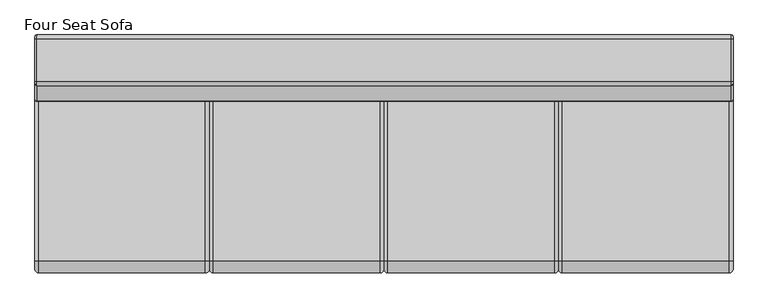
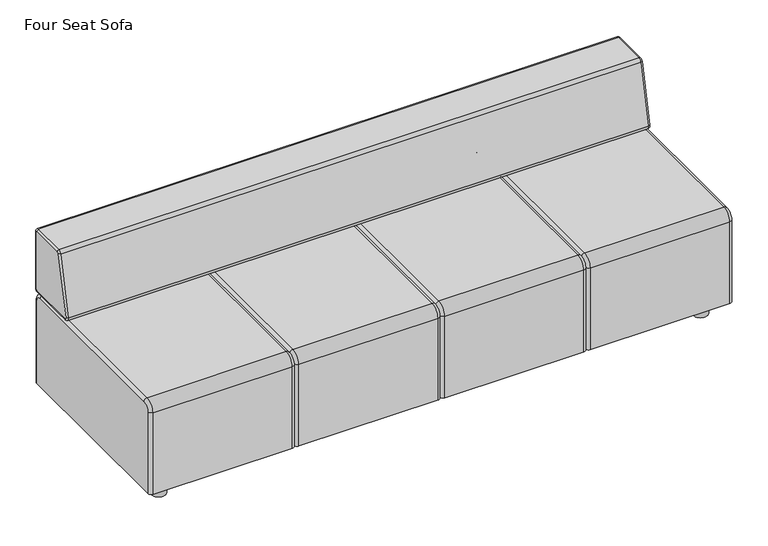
"""IFC4 building model written with IfcOpenShell, lengths in millimetres: furniture geometry, Coalesse_AM_Seating_Sofa_Await_Modular : Four Seat Sofa."""

from ifc_helpers import new_model, si_unit, point, frame, frame_2d, origin, origin_with_axes, place, context, project, spatial, circle_curve, ellipse_curve, trimmed, segment, composite_curve, outline, extrude, source, transform, mapped, element, save
from ifc_brep_helpers import plane_surface, cylinder_surface, revolved_surface, advanced_brep


def four_seat_sofa_2ec21741(model_context):
    return source(origin(), model_context, "Body", "SolidModel", [
        advanced_brep(
        [(1012.4820962, 393.3623127, 63.5), (1025.0654254, 405.9456418, 63.5), (1558.4886405, 405.9456418, 63.5), (1571.2821022, 393.1521801, 63.5), (1571.2821022, -343.2608965, 63.5), (1558.4886405, -356.0543582, 63.5), (1025.0654254, -356.0543582, 63.5), (1012.4820962, -343.471029, 63.5), (1012.4820962, -343.471029, 393.6999879), (1012.4820962, -317.9543582, 419.2166587), (1012.4820962, 370.1950719, 419.2166587), (1012.4820962, 393.3623127, 396.049418), (1571.2821022, 393.1521801, 396.049418), (1571.2821022, 370.1950719, 419.0065262), (1571.2821022, -317.9543582, 419.0065262), (1571.2821022, -343.2608965, 393.6999879), (1558.4886405, -356.0543582, 393.6999879), (1025.0654254, -356.0543582, 393.6999879), (1558.4886405, -317.9543582, 431.7999879), (1025.0654254, -317.9543582, 431.7999879), (1558.4886405, 370.1950719, 431.7999879), (1025.0654254, 370.1950719, 431.7999879), (1558.4886405, 405.9456418, 396.049418), (1025.0654254, 405.9456418, 396.049418)],
        [
            (0, 1, circle_curve(frame((1025.0654254, 393.3623127, 63.5), z_axis=(0.0, 0.0, -1.0), x_axis=(0.0, 1.0, 0.0)), 12.5833292)),
            (1, 2),
            (2, 3, circle_curve(frame((1558.4886405, 393.1521801, 63.5), z_axis=(0.0, 0.0, -1.0), x_axis=(0.0, 1.0, 0.0)), 12.7934617)),
            (3, 4),
            (4, 5, circle_curve(frame((1558.4886405, -343.2608965, 63.5), z_axis=(0.0, 0.0, -1.0), x_axis=(0.0, -1.0, 0.0)), 12.7934617)),
            (5, 6),
            (6, 7, circle_curve(frame((1025.0654254, -343.471029, 63.5), z_axis=(0.0, 0.0, -1.0), x_axis=(0.0, -1.0, 0.0)), 12.5833292)),
            (7, 0),
            (7, 8),
            (8, 9, circle_curve(frame((1012.4820962, -317.9543582, 393.6999879), z_axis=(-1.0, 0.0, 0.0), x_axis=(0.0, -1.0, 0.0)), 25.5166708)),
            (9, 10),
            (10, 11, circle_curve(frame((1012.4820962, 370.1950719, 396.049418), z_axis=(-1.0, 0.0, 0.0), x_axis=(0.0, 0.0, 1.0)), 23.1672407)),
            (11, 0),
            (3, 12),
            (12, 13, circle_curve(frame((1571.2821022, 370.1950719, 396.049418), z_axis=(1.0, 0.0, 0.0), x_axis=(0.0, 0.0, 1.0)), 22.9571082)),
            (13, 14),
            (14, 15, circle_curve(frame((1571.2821022, -317.9543582, 393.6999879), z_axis=(1.0, 0.0, 0.0), x_axis=(0.0, -1.0, 0.0)), 25.3065383)),
            (15, 4),
            (15, 16, circle_curve(frame((1558.4886405, -343.2608965, 393.6999879), z_axis=(0.0, 0.0, -1.0), x_axis=(0.0, -1.0, 0.0)), 12.7934617)),
            (16, 5),
            (16, 17),
            (17, 6),
            (17, 8, circle_curve(frame((1025.0654254, -343.471029, 393.6999879), z_axis=(0.0, 0.0, -1.0), x_axis=(0.0, -1.0, 0.0)), 12.5833292)),
            (14, 18, circle_curve(frame((1558.4886405, -317.9543582, 419.0065262), z_axis=(0.0, -1.0, 0.0), x_axis=(0.0, 0.0, 1.0)), 12.7934617)),
            (18, 16, circle_curve(frame((1558.4886405, -317.9543582, 393.6999879), z_axis=(1.0, 0.0, 0.0), x_axis=(0.0, -1.0, 0.0)), 38.1)),
            (18, 19),
            (19, 17, circle_curve(frame((1025.0654254, -317.9543582, 393.6999879), z_axis=(1.0, 0.0, 0.0), x_axis=(0.0, -1.0, 0.0)), 38.1)),
            (19, 9, circle_curve(frame((1025.0654254, -317.9543582, 419.2166587), z_axis=(0.0, -1.0, 0.0), x_axis=(0.0, 0.0, 1.0)), 12.5833292)),
            (13, 20, circle_curve(frame((1558.4886405, 370.1950719, 419.0065262), z_axis=(0.0, -1.0, 0.0), x_axis=(0.0, 0.0, 1.0)), 12.7934617)),
            (20, 18),
            (20, 21),
            (21, 19),
            (21, 10, circle_curve(frame((1025.0654254, 370.1950719, 419.2166587), z_axis=(0.0, -1.0, 0.0), x_axis=(0.0, 0.0, 1.0)), 12.5833292)),
            (12, 22, circle_curve(frame((1558.4886405, 393.1521801, 396.049418), z_axis=(0.0, 0.0, 1.0), x_axis=(0.0, 1.0, 0.0)), 12.7934617)),
            (22, 20, circle_curve(frame((1558.4886405, 370.1950719, 396.049418), z_axis=(1.0, 0.0, 0.0), x_axis=(0.0, 0.0, 1.0)), 35.7505699)),
            (22, 23),
            (23, 21, circle_curve(frame((1025.0654254, 370.1950719, 396.049418), z_axis=(1.0, 0.0, 0.0), x_axis=(0.0, 0.0, 1.0)), 35.7505699)),
            (23, 11, circle_curve(frame((1025.0654254, 393.3623127, 396.049418), z_axis=(0.0, 0.0, 1.0), x_axis=(0.0, 1.0, 0.0)), 12.5833292)),
            (2, 22),
            (1, 23),
        ],
        [
            plane_surface(frame((1676.4000182, -330.6543582, 63.5), z_axis=(0.0, 0.0, -1.0), x_axis=(1.0, 0.0, 0.0))),
            plane_surface(frame((1012.4820962, -343.471029, 63.5), z_axis=(-1.0, 0.0, 0.0), x_axis=(0.0, 0.0, 1.0))),
            plane_surface(frame((1571.2821022, -330.6543582, 63.5), z_axis=(1.0, 0.0, 0.0), x_axis=(0.0, 0.0, 1.0))),
            cylinder_surface(frame((1558.4886405, -343.2608965, 63.5), z_axis=(0.0, 0.0, -1.0), x_axis=(0.0, -1.0, 0.0)), 12.7934617),
            plane_surface(frame((1558.4886405, -356.0543582, 63.5), z_axis=(0.0, -1.0, 0.0), x_axis=(0.0, 0.0, 1.0))),
            cylinder_surface(frame((1025.0654254, -343.471029, 63.5), z_axis=(0.0, 0.0, -1.0), x_axis=(0.0, -1.0, 0.0)), 12.5833292),
            revolved_surface(trimmed(ellipse_curve(frame((1558.4886405, -343.2608965, 393.6999879), z_axis=(0.0, 0.0, -1.0), x_axis=(0.0, -1.0, 0.0)), 12.7934617, 12.7934617), [point((1571.2821022, -343.2608965, 393.6999879))], [point((1558.4886405, -356.0543582, 393.6999879))], True, "CARTESIAN"), (1676.4000182, -317.9543582, 393.6999879), (-1.0, 0.0, 0.0)),
            cylinder_surface(frame((1676.4000182, -317.9543582, 393.6999879), z_axis=(-1.0, 0.0, 0.0), x_axis=(0.0, -1.0, 0.0)), 38.1),
            revolved_surface(trimmed(ellipse_curve(frame((1025.0654254, -343.471029, 393.6999879), z_axis=(0.0, 0.0, -1.0), x_axis=(0.0, -1.0, 0.0)), 12.5833292, 12.5833292), [point((1025.0654254, -356.0543582, 393.6999879))], [point((1012.4820962, -343.471029, 393.6999879))], True, "CARTESIAN"), (1676.4000182, -317.9543582, 393.6999879), (-1.0, 0.0, 0.0)),
            cylinder_surface(frame((1558.4886405, -317.9543582, 419.0065262), z_axis=(0.0, -1.0, 0.0), x_axis=(0.0, 0.0, 1.0)), 12.7934617),
            plane_surface(frame((1558.4886405, -317.9543582, 431.7999879), z_axis=(0.0, 0.0, 1.0), x_axis=(0.0, 1.0, 0.0))),
            cylinder_surface(frame((1025.0654254, -317.9543582, 419.2166587), z_axis=(0.0, -1.0, 0.0), x_axis=(0.0, 0.0, 1.0)), 12.5833292),
            revolved_surface(trimmed(ellipse_curve(frame((1558.4886405, 370.1950719, 419.0065262), z_axis=(0.0, -1.0, 0.0), x_axis=(0.0, 0.0, 1.0)), 12.7934617, 12.7934617), [point((1571.2821022, 370.1950719, 419.0065262))], [point((1558.4886405, 370.1950719, 431.7999879))], True, "CARTESIAN"), (1676.4000182, 370.1950719, 396.049418), (-1.0, 0.0, 0.0)),
            cylinder_surface(frame((1676.4000182, 370.1950719, 396.049418), z_axis=(-1.0, 0.0, 0.0), x_axis=(0.0, 0.0, 1.0)), 35.7505699),
            revolved_surface(trimmed(ellipse_curve(frame((1025.0654254, 370.1950719, 419.2166587), z_axis=(0.0, -1.0, 0.0), x_axis=(0.0, 0.0, 1.0)), 12.5833292, 12.5833292), [point((1025.0654254, 370.1950719, 431.7999879))], [point((1012.4820962, 370.1950719, 419.2166587))], True, "CARTESIAN"), (1676.4000182, 370.1950719, 396.049418), (-1.0, 0.0, 0.0)),
            cylinder_surface(frame((1558.4886405, 393.1521801, 396.049418), z_axis=(0.0, 0.0, 1.0), x_axis=(0.0, 1.0, 0.0)), 12.7934617),
            plane_surface(frame((1558.4886405, 405.9456418, 396.049418), z_axis=(0.0, 1.0, 0.0), x_axis=(0.0, 0.0, -1.0))),
            cylinder_surface(frame((1025.0654254, 393.3623127, 396.049418), z_axis=(0.0, 0.0, 1.0), x_axis=(0.0, 1.0, 0.0)), 12.5833292),
        ],
        [
            (0, [[1, 2, 3, 4, 5, 6, 7, 8]]),
            (1, [[-8, 9, 10, 11, 12, 13]]),
            (2, [[-4, 14, 15, 16, 17, 18]]),
            (3, [[-5, -18, 19, 20]]),
            (4, [[-6, -20, 21, 22]]),
            (5, [[-7, -22, 23, -9]]),
            (6, [[-17, 24, 25, -19]]),
            (7, [[-21, -25, 26, 27]]),
            (8, [[-10, -23, -27, 28]]),
            (9, [[-16, 29, 30, -24]]),
            (10, [[-26, -30, 31, 32]]),
            (11, [[-11, -28, -32, 33]]),
            (12, [[-15, 34, 35, -29]]),
            (13, [[-31, -35, 36, 37]]),
            (14, [[-12, -33, -37, 38]]),
            (15, [[-14, -3, 39, -34]]),
            (16, [[-36, -39, -2, 40]]),
            (17, [[-13, -38, -40, -1]]),
        ],
    ),
        advanced_brep(
        [(453.6820901, 393.3623127, 63.5), (466.2654193, 405.9456418, 63.5), (999.6886345, 405.9456418, 63.5), (1012.4820962, 393.1521801, 63.5), (1012.4820962, -343.2608965, 63.5), (999.6886345, -356.0543582, 63.5), (466.2654193, -356.0543582, 63.5), (453.6820901, -343.471029, 63.5), (453.6820901, -343.471029, 393.6999879), (453.6820901, -317.9543582, 419.2166587), (453.6820901, 370.1950719, 419.2166587), (453.6820901, 393.3623127, 396.049418), (1012.4820962, 393.1521801, 396.049418), (1012.4820962, 370.1950719, 419.0065262), (1012.4820962, -317.9543582, 419.0065262), (1012.4820962, -343.2608965, 393.6999879), (999.6886345, -356.0543582, 393.6999879), (466.2654193, -356.0543582, 393.6999879), (999.6886345, -317.9543582, 431.7999879), (466.2654193, -317.9543582, 431.7999879), (999.6886345, 370.1950719, 431.7999879), (466.2654193, 370.1950719, 431.7999879), (999.6886345, 405.9456418, 396.049418), (466.2654193, 405.9456418, 396.049418)],
        [
            (0, 1, circle_curve(frame((466.2654193, 393.3623127, 63.5), z_axis=(0.0, 0.0, -1.0), x_axis=(0.0, 1.0, 0.0)), 12.5833292)),
            (1, 2),
            (2, 3, circle_curve(frame((999.6886345, 393.1521801, 63.5), z_axis=(0.0, 0.0, -1.0), x_axis=(0.0, 1.0, 0.0)), 12.7934617)),
            (3, 4),
            (4, 5, circle_curve(frame((999.6886345, -343.2608965, 63.5), z_axis=(0.0, 0.0, -1.0), x_axis=(0.0, -1.0, 0.0)), 12.7934617)),
            (5, 6),
            (6, 7, circle_curve(frame((466.2654193, -343.471029, 63.5), z_axis=(0.0, 0.0, -1.0), x_axis=(0.0, -1.0, 0.0)), 12.5833292)),
            (7, 0),
            (7, 8),
            (8, 9, circle_curve(frame((453.6820901, -317.9543582, 393.6999879), z_axis=(-1.0, 0.0, 0.0), x_axis=(0.0, -1.0, 0.0)), 25.5166708)),
            (9, 10),
            (10, 11, circle_curve(frame((453.6820901, 370.1950719, 396.049418), z_axis=(-1.0, 0.0, 0.0), x_axis=(0.0, 0.0, 1.0)), 23.1672407)),
            (11, 0),
            (3, 12),
            (12, 13, circle_curve(frame((1012.4820962, 370.1950719, 396.049418), z_axis=(1.0, 0.0, 0.0), x_axis=(0.0, 0.0, 1.0)), 22.9571082)),
            (13, 14),
            (14, 15, circle_curve(frame((1012.4820962, -317.9543582, 393.6999879), z_axis=(1.0, 0.0, 0.0), x_axis=(0.0, -1.0, 0.0)), 25.3065383)),
            (15, 4),
            (15, 16, circle_curve(frame((999.6886345, -343.2608965, 393.6999879), z_axis=(0.0, 0.0, -1.0), x_axis=(0.0, -1.0, 0.0)), 12.7934617)),
            (16, 5),
            (16, 17),
            (17, 6),
            (17, 8, circle_curve(frame((466.2654193, -343.471029, 393.6999879), z_axis=(0.0, 0.0, -1.0), x_axis=(0.0, -1.0, 0.0)), 12.5833292)),
            (14, 18, circle_curve(frame((999.6886345, -317.9543582, 419.0065262), z_axis=(0.0, -1.0, 0.0), x_axis=(0.0, 0.0, 1.0)), 12.7934617)),
            (18, 16, circle_curve(frame((999.6886345, -317.9543582, 393.6999879), z_axis=(1.0, 0.0, 0.0), x_axis=(0.0, -1.0, 0.0)), 38.1)),
            (18, 19),
            (19, 17, circle_curve(frame((466.2654193, -317.9543582, 393.6999879), z_axis=(1.0, 0.0, 0.0), x_axis=(0.0, -1.0, 0.0)), 38.1)),
            (19, 9, circle_curve(frame((466.2654193, -317.9543582, 419.2166587), z_axis=(0.0, -1.0, 0.0), x_axis=(0.0, 0.0, 1.0)), 12.5833292)),
            (13, 20, circle_curve(frame((999.6886345, 370.1950719, 419.0065262), z_axis=(0.0, -1.0, 0.0), x_axis=(0.0, 0.0, 1.0)), 12.7934617)),
            (20, 18),
            (20, 21),
            (21, 19),
            (21, 10, circle_curve(frame((466.2654193, 370.1950719, 419.2166587), z_axis=(0.0, -1.0, 0.0), x_axis=(0.0, 0.0, 1.0)), 12.5833292)),
            (12, 22, circle_curve(frame((999.6886345, 393.1521801, 396.049418), z_axis=(0.0, 0.0, 1.0), x_axis=(0.0, 1.0, 0.0)), 12.7934617)),
            (22, 20, circle_curve(frame((999.6886345, 370.1950719, 396.049418), z_axis=(1.0, 0.0, 0.0), x_axis=(0.0, 0.0, 1.0)), 35.7505699)),
            (22, 23),
            (23, 21, circle_curve(frame((466.2654193, 370.1950719, 396.049418), z_axis=(1.0, 0.0, 0.0), x_axis=(0.0, 0.0, 1.0)), 35.7505699)),
            (23, 11, circle_curve(frame((466.2654193, 393.3623127, 396.049418), z_axis=(0.0, 0.0, 1.0), x_axis=(0.0, 1.0, 0.0)), 12.5833292)),
            (2, 22),
            (1, 23),
        ],
        [
            plane_surface(frame((1117.6000121, -330.6543582, 63.5), z_axis=(0.0, 0.0, -1.0), x_axis=(1.0, 0.0, 0.0))),
            plane_surface(frame((453.6820901, -343.471029, 63.5), z_axis=(-1.0, 0.0, 0.0), x_axis=(0.0, 0.0, 1.0))),
            plane_surface(frame((1012.4820962, -330.6543582, 63.5), z_axis=(1.0, 0.0, 0.0), x_axis=(0.0, 0.0, 1.0))),
            cylinder_surface(frame((999.6886345, -343.2608965, 63.5), z_axis=(0.0, 0.0, -1.0), x_axis=(0.0, -1.0, 0.0)), 12.7934617),
            plane_surface(frame((999.6886345, -356.0543582, 63.5), z_axis=(0.0, -1.0, 0.0), x_axis=(0.0, 0.0, 1.0))),
            cylinder_surface(frame((466.2654193, -343.471029, 63.5), z_axis=(0.0, 0.0, -1.0), x_axis=(0.0, -1.0, 0.0)), 12.5833292),
            revolved_surface(trimmed(ellipse_curve(frame((999.6886345, -343.2608965, 393.6999879), z_axis=(0.0, 0.0, -1.0), x_axis=(0.0, -1.0, 0.0)), 12.7934617, 12.7934617), [point((1012.4820962, -343.2608965, 393.6999879))], [point((999.6886345, -356.0543582, 393.6999879))], True, "CARTESIAN"), (1117.6000121, -317.9543582, 393.6999879), (-1.0, 0.0, 0.0)),
            cylinder_surface(frame((1117.6000121, -317.9543582, 393.6999879), z_axis=(-1.0, 0.0, 0.0), x_axis=(0.0, -1.0, 0.0)), 38.1),
            revolved_surface(trimmed(ellipse_curve(frame((466.2654193, -343.471029, 393.6999879), z_axis=(0.0, 0.0, -1.0), x_axis=(0.0, -1.0, 0.0)), 12.5833292, 12.5833292), [point((466.2654193, -356.0543582, 393.6999879))], [point((453.6820901, -343.471029, 393.6999879))], True, "CARTESIAN"), (1117.6000121, -317.9543582, 393.6999879), (-1.0, 0.0, 0.0)),
            cylinder_surface(frame((999.6886345, -317.9543582, 419.0065262), z_axis=(0.0, -1.0, 0.0), x_axis=(0.0, 0.0, 1.0)), 12.7934617),
            plane_surface(frame((999.6886345, -317.9543582, 431.7999879), z_axis=(0.0, 0.0, 1.0), x_axis=(0.0, 1.0, 0.0))),
            cylinder_surface(frame((466.2654193, -317.9543582, 419.2166587), z_axis=(0.0, -1.0, 0.0), x_axis=(0.0, 0.0, 1.0)), 12.5833292),
            revolved_surface(trimmed(ellipse_curve(frame((999.6886345, 370.1950719, 419.0065262), z_axis=(0.0, -1.0, 0.0), x_axis=(0.0, 0.0, 1.0)), 12.7934617, 12.7934617), [point((1012.4820962, 370.1950719, 419.0065262))], [point((999.6886345, 370.1950719, 431.7999879))], True, "CARTESIAN"), (1117.6000121, 370.1950719, 396.049418), (-1.0, 0.0, 0.0)),
            cylinder_surface(frame((1117.6000121, 370.1950719, 396.049418), z_axis=(-1.0, 0.0, 0.0), x_axis=(0.0, 0.0, 1.0)), 35.7505699),
            revolved_surface(trimmed(ellipse_curve(frame((466.2654193, 370.1950719, 419.2166587), z_axis=(0.0, -1.0, 0.0), x_axis=(0.0, 0.0, 1.0)), 12.5833292, 12.5833292), [point((466.2654193, 370.1950719, 431.7999879))], [point((453.6820901, 370.1950719, 419.2166587))], True, "CARTESIAN"), (1117.6000121, 370.1950719, 396.049418), (-1.0, 0.0, 0.0)),
            cylinder_surface(frame((999.6886345, 393.1521801, 396.049418), z_axis=(0.0, 0.0, 1.0), x_axis=(0.0, 1.0, 0.0)), 12.7934617),
            plane_surface(frame((999.6886345, 405.9456418, 396.049418), z_axis=(0.0, 1.0, 0.0), x_axis=(0.0, 0.0, -1.0))),
            cylinder_surface(frame((466.2654193, 393.3623127, 396.049418), z_axis=(0.0, 0.0, 1.0), x_axis=(0.0, 1.0, 0.0)), 12.5833292),
        ],
        [
            (0, [[1, 2, 3, 4, 5, 6, 7, 8]]),
            (1, [[-8, 9, 10, 11, 12, 13]]),
            (2, [[-4, 14, 15, 16, 17, 18]]),
            (3, [[-5, -18, 19, 20]]),
            (4, [[-6, -20, 21, 22]]),
            (5, [[-7, -22, 23, -9]]),
            (6, [[-17, 24, 25, -19]]),
            (7, [[-21, -25, 26, 27]]),
            (8, [[-10, -23, -27, 28]]),
            (9, [[-16, 29, 30, -24]]),
            (10, [[-26, -30, 31, 32]]),
            (11, [[-11, -28, -32, 33]]),
            (12, [[-15, 34, 35, -29]]),
            (13, [[-31, -35, 36, 37]]),
            (14, [[-12, -33, -37, 38]]),
            (15, [[-14, -3, 39, -34]]),
            (16, [[-36, -39, -2, 40]]),
            (17, [[-13, -38, -40, -1]]),
        ],
    ),
        advanced_brep(
        [(-105.1179159, 393.3623127, 63.5), (-92.5345867, 405.9456418, 63.5), (440.8886284, 405.9456418, 63.5), (453.6820901, 393.1521801, 63.5), (453.6820901, -343.2608965, 63.5), (440.8886284, -356.0543582, 63.5), (-92.5345867, -356.0543582, 63.5), (-105.1179159, -343.471029, 63.5), (-105.1179159, -343.471029, 393.6999879), (-105.1179159, -317.9543582, 419.2166587), (-105.1179159, 370.1950719, 419.2166587), (-105.1179159, 393.3623127, 396.049418), (453.6820901, 393.1521801, 396.049418), (453.6820901, 370.1950719, 419.0065262), (453.6820901, -317.9543582, 419.0065262), (453.6820901, -343.2608965, 393.6999879), (440.8886284, -356.0543582, 393.6999879), (-92.5345867, -356.0543582, 393.6999879), (440.8886284, -317.9543582, 431.7999879), (-92.5345867, -317.9543582, 431.7999879), (440.8886284, 370.1950719, 431.7999879), (-92.5345867, 370.1950719, 431.7999879), (440.8886284, 405.9456418, 396.049418), (-92.5345867, 405.9456418, 396.049418)],
        [
            (0, 1, circle_curve(frame((-92.5345867, 393.3623127, 63.5), z_axis=(0.0, 0.0, -1.0), x_axis=(0.0, 1.0, 0.0)), 12.5833292)),
            (1, 2),
            (2, 3, circle_curve(frame((440.8886284, 393.1521801, 63.5), z_axis=(0.0, 0.0, -1.0), x_axis=(0.0, 1.0, 0.0)), 12.7934617)),
            (3, 4),
            (4, 5, circle_curve(frame((440.8886284, -343.2608965, 63.5), z_axis=(0.0, 0.0, -1.0), x_axis=(0.0, -1.0, 0.0)), 12.7934617)),
            (5, 6),
            (6, 7, circle_curve(frame((-92.5345867, -343.471029, 63.5), z_axis=(0.0, 0.0, -1.0), x_axis=(0.0, -1.0, 0.0)), 12.5833292)),
            (7, 0),
            (7, 8),
            (8, 9, circle_curve(frame((-105.1179159, -317.9543582, 393.6999879), z_axis=(-1.0, 0.0, 0.0), x_axis=(0.0, -1.0, 0.0)), 25.5166708)),
            (9, 10),
            (10, 11, circle_curve(frame((-105.1179159, 370.1950719, 396.049418), z_axis=(-1.0, 0.0, 0.0), x_axis=(0.0, 0.0, 1.0)), 23.1672407)),
            (11, 0),
            (3, 12),
            (12, 13, circle_curve(frame((453.6820901, 370.1950719, 396.049418), z_axis=(1.0, 0.0, 0.0), x_axis=(0.0, 0.0, 1.0)), 22.9571082)),
            (13, 14),
            (14, 15, circle_curve(frame((453.6820901, -317.9543582, 393.6999879), z_axis=(1.0, 0.0, 0.0), x_axis=(0.0, -1.0, 0.0)), 25.3065383)),
            (15, 4),
            (15, 16, circle_curve(frame((440.8886284, -343.2608965, 393.6999879), z_axis=(0.0, 0.0, -1.0), x_axis=(0.0, -1.0, 0.0)), 12.7934617)),
            (16, 5),
            (16, 17),
            (17, 6),
            (17, 8, circle_curve(frame((-92.5345867, -343.471029, 393.6999879), z_axis=(0.0, 0.0, -1.0), x_axis=(0.0, -1.0, 0.0)), 12.5833292)),
            (14, 18, circle_curve(frame((440.8886284, -317.9543582, 419.0065262), z_axis=(0.0, -1.0, 0.0), x_axis=(0.0, 0.0, 1.0)), 12.7934617)),
            (18, 16, circle_curve(frame((440.8886284, -317.9543582, 393.6999879), z_axis=(1.0, 0.0, 0.0), x_axis=(0.0, -1.0, 0.0)), 38.1)),
            (18, 19),
            (19, 17, circle_curve(frame((-92.5345867, -317.9543582, 393.6999879), z_axis=(1.0, 0.0, 0.0), x_axis=(0.0, -1.0, 0.0)), 38.1)),
            (19, 9, circle_curve(frame((-92.5345867, -317.9543582, 419.2166587), z_axis=(0.0, -1.0, 0.0), x_axis=(0.0, 0.0, 1.0)), 12.5833292)),
            (13, 20, circle_curve(frame((440.8886284, 370.1950719, 419.0065262), z_axis=(0.0, -1.0, 0.0), x_axis=(0.0, 0.0, 1.0)), 12.7934617)),
            (20, 18),
            (20, 21),
            (21, 19),
            (21, 10, circle_curve(frame((-92.5345867, 370.1950719, 419.2166587), z_axis=(0.0, -1.0, 0.0), x_axis=(0.0, 0.0, 1.0)), 12.5833292)),
            (12, 22, circle_curve(frame((440.8886284, 393.1521801, 396.049418), z_axis=(0.0, 0.0, 1.0), x_axis=(0.0, 1.0, 0.0)), 12.7934617)),
            (22, 20, circle_curve(frame((440.8886284, 370.1950719, 396.049418), z_axis=(1.0, 0.0, 0.0), x_axis=(0.0, 0.0, 1.0)), 35.7505699)),
            (22, 23),
            (23, 21, circle_curve(frame((-92.5345867, 370.1950719, 396.049418), z_axis=(1.0, 0.0, 0.0), x_axis=(0.0, 0.0, 1.0)), 35.7505699)),
            (23, 11, circle_curve(frame((-92.5345867, 393.3623127, 396.049418), z_axis=(0.0, 0.0, 1.0), x_axis=(0.0, 1.0, 0.0)), 12.5833292)),
            (2, 22),
            (1, 23),
        ],
        [
            plane_surface(frame((558.8000061, -330.6543582, 63.5), z_axis=(0.0, 0.0, -1.0), x_axis=(1.0, 0.0, 0.0))),
            plane_surface(frame((-105.1179159, -343.471029, 63.5), z_axis=(-1.0, 0.0, 0.0), x_axis=(0.0, 0.0, 1.0))),
            plane_surface(frame((453.6820901, -330.6543582, 63.5), z_axis=(1.0, 0.0, 0.0), x_axis=(0.0, 0.0, 1.0))),
            cylinder_surface(frame((440.8886284, -343.2608965, 63.5), z_axis=(0.0, 0.0, -1.0), x_axis=(0.0, -1.0, 0.0)), 12.7934617),
            plane_surface(frame((440.8886284, -356.0543582, 63.5), z_axis=(0.0, -1.0, 0.0), x_axis=(0.0, 0.0, 1.0))),
            cylinder_surface(frame((-92.5345867, -343.471029, 63.5), z_axis=(0.0, 0.0, -1.0), x_axis=(0.0, -1.0, 0.0)), 12.5833292),
            revolved_surface(trimmed(ellipse_curve(frame((440.8886284, -343.2608965, 393.6999879), z_axis=(0.0, 0.0, -1.0), x_axis=(0.0, -1.0, 0.0)), 12.7934617, 12.7934617), [point((453.6820901, -343.2608965, 393.6999879))], [point((440.8886284, -356.0543582, 393.6999879))], True, "CARTESIAN"), (558.8000061, -317.9543582, 393.6999879), (-1.0, 0.0, 0.0)),
            cylinder_surface(frame((558.8000061, -317.9543582, 393.6999879), z_axis=(-1.0, 0.0, 0.0), x_axis=(0.0, -1.0, 0.0)), 38.1),
            revolved_surface(trimmed(ellipse_curve(frame((-92.5345867, -343.471029, 393.6999879), z_axis=(0.0, 0.0, -1.0), x_axis=(0.0, -1.0, 0.0)), 12.5833292, 12.5833292), [point((-92.5345867, -356.0543582, 393.6999879))], [point((-105.1179159, -343.471029, 393.6999879))], True, "CARTESIAN"), (558.8000061, -317.9543582, 393.6999879), (-1.0, 0.0, 0.0)),
            cylinder_surface(frame((440.8886284, -317.9543582, 419.0065262), z_axis=(0.0, -1.0, 0.0), x_axis=(0.0, 0.0, 1.0)), 12.7934617),
            plane_surface(frame((440.8886284, -317.9543582, 431.7999879), z_axis=(0.0, 0.0, 1.0), x_axis=(0.0, 1.0, 0.0))),
            cylinder_surface(frame((-92.5345867, -317.9543582, 419.2166587), z_axis=(0.0, -1.0, 0.0), x_axis=(0.0, 0.0, 1.0)), 12.5833292),
            revolved_surface(trimmed(ellipse_curve(frame((440.8886284, 370.1950719, 419.0065262), z_axis=(0.0, -1.0, 0.0), x_axis=(0.0, 0.0, 1.0)), 12.7934617, 12.7934617), [point((453.6820901, 370.1950719, 419.0065262))], [point((440.8886284, 370.1950719, 431.7999879))], True, "CARTESIAN"), (558.8000061, 370.1950719, 396.049418), (-1.0, 0.0, 0.0)),
            cylinder_surface(frame((558.8000061, 370.1950719, 396.049418), z_axis=(-1.0, 0.0, 0.0), x_axis=(0.0, 0.0, 1.0)), 35.7505699),
            revolved_surface(trimmed(ellipse_curve(frame((-92.5345867, 370.1950719, 419.2166587), z_axis=(0.0, -1.0, 0.0), x_axis=(0.0, 0.0, 1.0)), 12.5833292, 12.5833292), [point((-92.5345867, 370.1950719, 431.7999879))], [point((-105.1179159, 370.1950719, 419.2166587))], True, "CARTESIAN"), (558.8000061, 370.1950719, 396.049418), (-1.0, 0.0, 0.0)),
            cylinder_surface(frame((440.8886284, 393.1521801, 396.049418), z_axis=(0.0, 0.0, 1.0), x_axis=(0.0, 1.0, 0.0)), 12.7934617),
            plane_surface(frame((440.8886284, 405.9456418, 396.049418), z_axis=(0.0, 1.0, 0.0), x_axis=(0.0, 0.0, -1.0))),
            cylinder_surface(frame((-92.5345867, 393.3623127, 396.049418), z_axis=(0.0, 0.0, 1.0), x_axis=(0.0, 1.0, 0.0)), 12.5833292),
        ],
        [
            (0, [[1, 2, 3, 4, 5, 6, 7, 8]]),
            (1, [[-8, 9, 10, 11, 12, 13]]),
            (2, [[-4, 14, 15, 16, 17, 18]]),
            (3, [[-5, -18, 19, 20]]),
            (4, [[-6, -20, 21, 22]]),
            (5, [[-7, -22, 23, -9]]),
            (6, [[-17, 24, 25, -19]]),
            (7, [[-21, -25, 26, 27]]),
            (8, [[-10, -23, -27, 28]]),
            (9, [[-16, 29, 30, -24]]),
            (10, [[-26, -30, 31, 32]]),
            (11, [[-11, -28, -32, 33]]),
            (12, [[-15, 34, 35, -29]]),
            (13, [[-31, -35, 36, 37]]),
            (14, [[-12, -33, -37, 38]]),
            (15, [[-14, -3, 39, -34]]),
            (16, [[-36, -39, -2, 40]]),
            (17, [[-13, -38, -40, -1]]),
        ],
    ),
        advanced_brep(
        [(-663.917922, 393.3623127, 63.5), (-651.3345928, 405.9456418, 63.5), (-117.9113776, 405.9456418, 63.5), (-105.1179159, 393.1521801, 63.5), (-105.1179159, -343.2608965, 63.5), (-117.9113776, -356.0543582, 63.5), (-651.3345928, -356.0543582, 63.5), (-663.917922, -343.471029, 63.5), (-663.917922, -343.471029, 393.6999879), (-663.917922, -317.9543582, 419.2166587), (-663.917922, 370.1950719, 419.2166587), (-663.917922, 393.3623127, 396.049418), (-105.1179159, 393.1521801, 396.049418), (-105.1179159, 370.1950719, 419.0065262), (-105.1179159, -317.9543582, 419.0065262), (-105.1179159, -343.2608965, 393.6999879), (-117.9113776, -356.0543582, 393.6999879), (-651.3345928, -356.0543582, 393.6999879), (-117.9113776, -317.9543582, 431.7999879), (-651.3345928, -317.9543582, 431.7999879), (-117.9113776, 370.1950719, 431.7999879), (-651.3345928, 370.1950719, 431.7999879), (-117.9113776, 405.9456418, 396.049418), (-651.3345928, 405.9456418, 396.049418)],
        [
            (0, 1, circle_curve(frame((-651.3345928, 393.3623127, 63.5), z_axis=(0.0, 0.0, -1.0), x_axis=(0.0, 1.0, 0.0)), 12.5833292)),
            (1, 2),
            (2, 3, circle_curve(frame((-117.9113776, 393.1521801, 63.5), z_axis=(0.0, 0.0, -1.0), x_axis=(0.0, 1.0, 0.0)), 12.7934617)),
            (3, 4),
            (4, 5, circle_curve(frame((-117.9113776, -343.2608965, 63.5), z_axis=(0.0, 0.0, -1.0), x_axis=(0.0, -1.0, 0.0)), 12.7934617)),
            (5, 6),
            (6, 7, circle_curve(frame((-651.3345928, -343.471029, 63.5), z_axis=(0.0, 0.0, -1.0), x_axis=(0.0, -1.0, 0.0)), 12.5833292)),
            (7, 0),
            (7, 8),
            (8, 9, circle_curve(frame((-663.917922, -317.9543582, 393.6999879), z_axis=(-1.0, 0.0, 0.0), x_axis=(0.0, -1.0, 0.0)), 25.5166708)),
            (9, 10),
            (10, 11, circle_curve(frame((-663.917922, 370.1950719, 396.049418), z_axis=(-1.0, 0.0, 0.0), x_axis=(0.0, 0.0, 1.0)), 23.1672407)),
            (11, 0),
            (3, 12),
            (12, 13, circle_curve(frame((-105.1179159, 370.1950719, 396.049418), z_axis=(1.0, 0.0, 0.0), x_axis=(0.0, 0.0, 1.0)), 22.9571082)),
            (13, 14),
            (14, 15, circle_curve(frame((-105.1179159, -317.9543582, 393.6999879), z_axis=(1.0, 0.0, 0.0), x_axis=(0.0, -1.0, 0.0)), 25.3065383)),
            (15, 4),
            (15, 16, circle_curve(frame((-117.9113776, -343.2608965, 393.6999879), z_axis=(0.0, 0.0, -1.0), x_axis=(0.0, -1.0, 0.0)), 12.7934617)),
            (16, 5),
            (16, 17),
            (17, 6),
            (17, 8, circle_curve(frame((-651.3345928, -343.471029, 393.6999879), z_axis=(0.0, 0.0, -1.0), x_axis=(0.0, -1.0, 0.0)), 12.5833292)),
            (14, 18, circle_curve(frame((-117.9113776, -317.9543582, 419.0065262), z_axis=(0.0, -1.0, 0.0), x_axis=(0.0, 0.0, 1.0)), 12.7934617)),
            (18, 16, circle_curve(frame((-117.9113776, -317.9543582, 393.6999879), z_axis=(1.0, 0.0, 0.0), x_axis=(0.0, -1.0, 0.0)), 38.1)),
            (18, 19),
            (19, 17, circle_curve(frame((-651.3345928, -317.9543582, 393.6999879), z_axis=(1.0, 0.0, 0.0), x_axis=(0.0, -1.0, 0.0)), 38.1)),
            (19, 9, circle_curve(frame((-651.3345928, -317.9543582, 419.2166587), z_axis=(0.0, -1.0, 0.0), x_axis=(0.0, 0.0, 1.0)), 12.5833292)),
            (13, 20, circle_curve(frame((-117.9113776, 370.1950719, 419.0065262), z_axis=(0.0, -1.0, 0.0), x_axis=(0.0, 0.0, 1.0)), 12.7934617)),
            (20, 18),
            (20, 21),
            (21, 19),
            (21, 10, circle_curve(frame((-651.3345928, 370.1950719, 419.2166587), z_axis=(0.0, -1.0, 0.0), x_axis=(0.0, 0.0, 1.0)), 12.5833292)),
            (12, 22, circle_curve(frame((-117.9113776, 393.1521801, 396.049418), z_axis=(0.0, 0.0, 1.0), x_axis=(0.0, 1.0, 0.0)), 12.7934617)),
            (22, 20, circle_curve(frame((-117.9113776, 370.1950719, 396.049418), z_axis=(1.0, 0.0, 0.0), x_axis=(0.0, 0.0, 1.0)), 35.7505699)),
            (22, 23),
            (23, 21, circle_curve(frame((-651.3345928, 370.1950719, 396.049418), z_axis=(1.0, 0.0, 0.0), x_axis=(0.0, 0.0, 1.0)), 35.7505699)),
            (23, 11, circle_curve(frame((-651.3345928, 393.3623127, 396.049418), z_axis=(0.0, 0.0, 1.0), x_axis=(0.0, 1.0, 0.0)), 12.5833292)),
            (2, 22),
            (1, 23),
        ],
        [
            plane_surface(frame((0.0, -330.6543582, 63.5), z_axis=(0.0, 0.0, -1.0), x_axis=(1.0, 0.0, 0.0))),
            plane_surface(frame((-663.917922, -343.471029, 63.5), z_axis=(-1.0, 0.0, 0.0), x_axis=(0.0, 0.0, 1.0))),
            plane_surface(frame((-105.1179159, -330.6543582, 63.5), z_axis=(1.0, 0.0, 0.0), x_axis=(0.0, 0.0, 1.0))),
            cylinder_surface(frame((-117.9113776, -343.2608965, 63.5), z_axis=(0.0, 0.0, -1.0), x_axis=(0.0, -1.0, 0.0)), 12.7934617),
            plane_surface(frame((-117.9113776, -356.0543582, 63.5), z_axis=(0.0, -1.0, 0.0), x_axis=(0.0, 0.0, 1.0))),
            cylinder_surface(frame((-651.3345928, -343.471029, 63.5), z_axis=(0.0, 0.0, -1.0), x_axis=(0.0, -1.0, 0.0)), 12.5833292),
            revolved_surface(trimmed(ellipse_curve(frame((-117.9113776, -343.2608965, 393.6999879), z_axis=(0.0, 0.0, -1.0), x_axis=(0.0, -1.0, 0.0)), 12.7934617, 12.7934617), [point((-105.1179159, -343.2608965, 393.6999879))], [point((-117.9113776, -356.0543582, 393.6999879))], True, "CARTESIAN"), (0.0, -317.9543582, 393.6999879), (-1.0, 0.0, 0.0)),
            cylinder_surface(frame((0.0, -317.9543582, 393.6999879), z_axis=(-1.0, 0.0, 0.0), x_axis=(0.0, -1.0, 0.0)), 38.1),
            revolved_surface(trimmed(ellipse_curve(frame((-651.3345928, -343.471029, 393.6999879), z_axis=(0.0, 0.0, -1.0), x_axis=(0.0, -1.0, 0.0)), 12.5833292, 12.5833292), [point((-651.3345928, -356.0543582, 393.6999879))], [point((-663.917922, -343.471029, 393.6999879))], True, "CARTESIAN"), (0.0, -317.9543582, 393.6999879), (-1.0, 0.0, 0.0)),
            cylinder_surface(frame((-117.9113776, -317.9543582, 419.0065262), z_axis=(0.0, -1.0, 0.0), x_axis=(0.0, 0.0, 1.0)), 12.7934617),
            plane_surface(frame((-117.9113776, -317.9543582, 431.7999879), z_axis=(0.0, 0.0, 1.0), x_axis=(0.0, 1.0, 0.0))),
            cylinder_surface(frame((-651.3345928, -317.9543582, 419.2166587), z_axis=(0.0, -1.0, 0.0), x_axis=(0.0, 0.0, 1.0)), 12.5833292),
            revolved_surface(trimmed(ellipse_curve(frame((-117.9113776, 370.1950719, 419.0065262), z_axis=(0.0, -1.0, 0.0), x_axis=(0.0, 0.0, 1.0)), 12.7934617, 12.7934617), [point((-105.1179159, 370.1950719, 419.0065262))], [point((-117.9113776, 370.1950719, 431.7999879))], True, "CARTESIAN"), (0.0, 370.1950719, 396.049418), (-1.0, 0.0, 0.0)),
            cylinder_surface(frame((0.0, 370.1950719, 396.049418), z_axis=(-1.0, 0.0, 0.0), x_axis=(0.0, 0.0, 1.0)), 35.7505699),
            revolved_surface(trimmed(ellipse_curve(frame((-651.3345928, 370.1950719, 419.2166587), z_axis=(0.0, -1.0, 0.0), x_axis=(0.0, 0.0, 1.0)), 12.5833292, 12.5833292), [point((-651.3345928, 370.1950719, 431.7999879))], [point((-663.917922, 370.1950719, 419.2166587))], True, "CARTESIAN"), (0.0, 370.1950719, 396.049418), (-1.0, 0.0, 0.0)),
            cylinder_surface(frame((-117.9113776, 393.1521801, 396.049418), z_axis=(0.0, 0.0, 1.0), x_axis=(0.0, 1.0, 0.0)), 12.7934617),
            plane_surface(frame((-117.9113776, 405.9456418, 396.049418), z_axis=(0.0, 1.0, 0.0), x_axis=(0.0, 0.0, -1.0))),
            cylinder_surface(frame((-651.3345928, 393.3623127, 396.049418), z_axis=(0.0, 0.0, 1.0), x_axis=(0.0, 1.0, 0.0)), 12.5833292),
        ],
        [
            (0, [[1, 2, 3, 4, 5, 6, 7, 8]]),
            (1, [[-8, 9, 10, 11, 12, 13]]),
            (2, [[-4, 14, 15, 16, 17, 18]]),
            (3, [[-5, -18, 19, 20]]),
            (4, [[-6, -20, 21, 22]]),
            (5, [[-7, -22, 23, -9]]),
            (6, [[-17, 24, 25, -19]]),
            (7, [[-21, -25, 26, 27]]),
            (8, [[-10, -23, -27, 28]]),
            (9, [[-16, 29, 30, -24]]),
            (10, [[-26, -30, 31, 32]]),
            (11, [[-11, -28, -32, 33]]),
            (12, [[-15, 34, 35, -29]]),
            (13, [[-31, -35, 36, 37]]),
            (14, [[-12, -33, -37, 38]]),
            (15, [[-14, -3, 39, -34]]),
            (16, [[-36, -39, -2, 40]]),
            (17, [[-13, -38, -40, -1]]),
        ],
    ),
        advanced_brep(
        [(1564.932078, 405.9456176, 673.1), (1564.932078, 393.2456418, 685.7999758), (1571.282078, 393.2456418, 679.4499758), (1571.282078, 399.5956176, 673.1), (-657.5679462, 405.9456176, 673.1), (-657.5679462, 393.2456418, 685.7999758), (-663.917922, 399.5956418, 673.1), (-663.917922, 393.2456418, 679.45), (1571.282078, 399.5956176, 444.5), (1564.932078, 405.9456176, 444.5), (-657.5679462, 405.9456176, 444.5), (-663.917922, 399.5956418, 444.5), (1571.282078, 393.2456418, 438.1500242), (1564.932078, 393.2456418, 431.8000242), (-657.5679462, 393.2456418, 431.8000242), (-663.917922, 393.2456418, 438.15), (1571.282078, 205.5396507, 438.1500242), (1564.932078, 205.5396507, 431.8000242), (-657.5679462, 205.5396507, 431.8000242), (-663.917922, 205.5396507, 438.15), (1571.282078, 199.3396428, 445.8718942), (1564.932078, 193.1396112, 447.2437937), (-657.5679462, 193.1396112, 447.2437937), (-663.917922, 199.3396191, 445.8718995), (1571.282078, 249.9226461, 674.4718942), (1564.932078, 243.7226145, 675.8437937), (-657.5679462, 243.7226145, 675.8437937), (-663.917922, 249.9226225, 674.4718995), (1571.282078, 256.1226541, 679.4499758), (1564.932078, 256.1226541, 685.7999758), (-657.5679462, 256.1226541, 685.7999758), (-663.917922, 256.1226541, 679.45)],
        [
            (0, 1, circle_curve(frame((1564.932078, 393.2456418, 673.1), z_axis=(1.0, 0.0, 0.0), x_axis=(0.0, 0.0, 1.0)), 12.6999758)),
            (1, 2, circle_curve(frame((1564.932078, 393.2456418, 679.4499758), z_axis=(0.0, 1.0, 0.0), x_axis=(0.0, 0.0, 1.0)), 6.35)),
            (2, 3, circle_curve(frame((1571.282078, 393.2456418, 673.1), z_axis=(-1.0, 0.0, 0.0), x_axis=(0.0, 0.0, 1.0)), 6.3499758)),
            (3, 0, circle_curve(frame((1564.932078, 399.5956176, 673.1), z_axis=(0.0, 0.0, 1.0), x_axis=(0.0, 1.0, 0.0)), 6.35)),
            (0, 4),
            (4, 5, circle_curve(frame((-657.5679462, 393.2456418, 673.1), z_axis=(1.0, 0.0, 0.0), x_axis=(0.0, 0.0, 1.0)), 12.6999758)),
            (5, 1),
            (4, 6, circle_curve(frame((-657.5679462, 399.5956418, 673.1), z_axis=(0.0, 0.0, 1.0), x_axis=(0.0, 1.0, 0.0)), 6.3499758)),
            (6, 7, circle_curve(frame((-663.917922, 393.2456418, 673.1), z_axis=(1.0, 0.0, 0.0), x_axis=(0.0, 0.0, 1.0)), 6.35)),
            (7, 5, circle_curve(frame((-657.5679462, 393.2456418, 679.45), z_axis=(0.0, 1.0, 0.0), x_axis=(0.0, 0.0, 1.0)), 6.3499758)),
            (3, 8),
            (8, 9, circle_curve(frame((1564.932078, 399.5956176, 444.5), z_axis=(0.0, 0.0, 1.0), x_axis=(0.0, 1.0, 0.0)), 6.35)),
            (9, 0),
            (9, 10),
            (10, 4),
            (10, 11, circle_curve(frame((-657.5679462, 399.5956418, 444.5), z_axis=(0.0, 0.0, 1.0), x_axis=(0.0, 1.0, 0.0)), 6.3499758)),
            (11, 6),
            (8, 12, circle_curve(frame((1571.282078, 393.2456418, 444.5), z_axis=(-1.0, 0.0, 0.0), x_axis=(0.0, 1.0, 0.0)), 6.3499758)),
            (12, 13, circle_curve(frame((1564.932078, 393.2456418, 438.1500242), z_axis=(0.0, 1.0, 0.0), x_axis=(0.0, 0.0, -1.0)), 6.35)),
            (13, 9, circle_curve(frame((1564.932078, 393.2456418, 444.5), z_axis=(1.0, 0.0, 0.0), x_axis=(0.0, 1.0, 0.0)), 12.6999758)),
            (13, 14),
            (14, 10, circle_curve(frame((-657.5679462, 393.2456418, 444.5), z_axis=(1.0, 0.0, 0.0), x_axis=(0.0, 1.0, 0.0)), 12.6999758)),
            (14, 15, circle_curve(frame((-657.5679462, 393.2456418, 438.15), z_axis=(0.0, 1.0, 0.0), x_axis=(0.0, 0.0, -1.0)), 6.3499758)),
            (15, 11, circle_curve(frame((-663.917922, 393.2456418, 444.5), z_axis=(1.0, 0.0, 0.0), x_axis=(0.0, 1.0, 0.0)), 6.35)),
            (12, 16),
            (16, 17, circle_curve(frame((1564.932078, 205.5396507, 438.1500242), z_axis=(0.0, 1.0, 0.0), x_axis=(0.0, 0.0, -1.0)), 6.35)),
            (17, 13),
            (17, 18),
            (18, 14),
            (18, 19, circle_curve(frame((-657.5679462, 205.5396507, 438.15), z_axis=(0.0, 1.0, 0.0), x_axis=(0.0, 0.0, -1.0)), 6.3499758)),
            (19, 15),
            (16, 20, circle_curve(frame((1571.282078, 205.5396507, 444.5), z_axis=(-1.0, 0.0, 0.0), x_axis=(0.0, 0.0, -1.0)), 6.3499758)),
            (20, 21, circle_curve(frame((1564.932078, 199.3396428, 445.8718942), z_axis=(0.0, -0.21604716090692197, -0.9763829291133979), x_axis=(0.0, -0.9763829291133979, 0.21604716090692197)), 6.35)),
            (21, 17, circle_curve(frame((1564.932078, 205.5396507, 444.5), z_axis=(1.0, 0.0, 0.0), x_axis=(0.0, 0.0, -1.0)), 12.6999758)),
            (21, 22),
            (22, 18, circle_curve(frame((-657.5679462, 205.5396507, 444.5), z_axis=(1.0, 0.0, 0.0), x_axis=(0.0, 0.0, -1.0)), 12.6999758)),
            (22, 23, circle_curve(frame((-657.5679462, 199.3396191, 445.8718995), z_axis=(0.0, -0.21604716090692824, -0.9763829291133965), x_axis=(0.0, -0.9763829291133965, 0.21604716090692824)), 6.3499758)),
            (23, 19, circle_curve(frame((-663.917922, 205.5396507, 444.5), z_axis=(1.0, 0.0, 0.0), x_axis=(0.0, 0.0, -1.0)), 6.35)),
            (20, 24),
            (24, 25, circle_curve(frame((1564.932078, 249.9226461, 674.4718942), z_axis=(0.0, -0.2160471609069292, -0.9763829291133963), x_axis=(0.0, -0.9763829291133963, 0.2160471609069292)), 6.35)),
            (25, 21),
            (25, 26),
            (26, 22),
            (26, 27, circle_curve(frame((-657.5679462, 249.9226225, 674.4718995), z_axis=(0.0, -0.2160471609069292, -0.9763829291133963), x_axis=(0.0, -0.9763829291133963, 0.2160471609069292)), 6.3499758)),
            (27, 23),
            (24, 28, circle_curve(frame((1571.282078, 256.1226541, 673.1), z_axis=(-1.0, 0.0, 0.0), x_axis=(0.0, -0.9763829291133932, 0.21604716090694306)), 6.3499758)),
            (28, 29, circle_curve(frame((1564.932078, 256.1226541, 679.4499758), z_axis=(0.0, -1.0, 0.0), x_axis=(0.0, 0.0, 1.0)), 6.35)),
            (29, 25, circle_curve(frame((1564.932078, 256.1226541, 673.1), z_axis=(1.0, 0.0, 0.0), x_axis=(0.0, -0.9763829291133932, 0.21604716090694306)), 12.6999758)),
            (29, 30),
            (30, 26, circle_curve(frame((-657.5679462, 256.1226541, 673.1), z_axis=(1.0, 0.0, 0.0), x_axis=(0.0, -0.9763829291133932, 0.21604716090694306)), 12.6999758)),
            (30, 31, circle_curve(frame((-657.5679462, 256.1226541, 679.45), z_axis=(0.0, -1.0, 0.0), x_axis=(0.0, 0.0, 1.0)), 6.3499758)),
            (31, 27, circle_curve(frame((-663.917922, 256.1226541, 673.1), z_axis=(1.0, 0.0, 0.0), x_axis=(0.0, -0.9763829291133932, 0.21604716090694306)), 6.35)),
            (31, 7),
            (2, 28),
            (1, 29),
            (5, 30),
        ],
        [
            revolved_surface(trimmed(ellipse_curve(frame((1564.932078, 393.2456418, 679.4499758), z_axis=(0.0, -1.0, 0.0), x_axis=(0.0, 0.0, 1.0)), 6.35, 6.35), [point((1571.282078, 393.2456418, 679.4499758))], [point((1564.932078, 393.2456418, 685.7999758))], True, "CARTESIAN"), (0.0, 393.2456418, 673.1), (-1.0, 0.0, 0.0)),
            cylinder_surface(frame((0.0, 393.2456418, 673.1), z_axis=(-1.0, 0.0, 0.0), x_axis=(0.0, 0.0, 1.0)), 12.6999758),
            revolved_surface(trimmed(ellipse_curve(frame((-657.5679462, 393.2456418, 679.45), z_axis=(0.0, -1.0, 0.0), x_axis=(0.0, 0.0, 1.0)), 6.3499758, 6.3499758), [point((-657.5679462, 393.2456418, 685.7999758))], [point((-663.917922, 393.2456418, 679.45))], True, "CARTESIAN"), (0.0, 393.2456418, 673.1), (-1.0, 0.0, 0.0)),
            cylinder_surface(frame((1564.932078, 399.5956176, 673.1), z_axis=(0.0, 0.0, 1.0), x_axis=(0.0, 1.0, 0.0)), 6.35),
            plane_surface(frame((1564.932078, 405.9456176, 673.1), z_axis=(0.0, 1.0, 0.0), x_axis=(0.0, 0.0, -1.0))),
            cylinder_surface(frame((-657.5679462, 399.5956418, 673.1), z_axis=(0.0, 0.0, 1.0), x_axis=(0.0, 1.0, 0.0)), 6.3499758),
            revolved_surface(trimmed(ellipse_curve(frame((1564.932078, 399.5956176, 444.5), z_axis=(0.0, 0.0, 1.0), x_axis=(0.0, 1.0, 0.0)), 6.35, 6.35), [point((1571.282078, 399.5956176, 444.5))], [point((1564.932078, 405.9456176, 444.5))], True, "CARTESIAN"), (0.0, 393.2456418, 444.5), (-1.0, 0.0, 0.0)),
            cylinder_surface(frame((0.0, 393.2456418, 444.5), z_axis=(-1.0, 0.0, 0.0), x_axis=(0.0, 1.0, 0.0)), 12.6999758),
            revolved_surface(trimmed(ellipse_curve(frame((-657.5679462, 399.5956418, 444.5), z_axis=(0.0, 0.0, 1.0), x_axis=(0.0, 1.0, 0.0)), 6.3499758, 6.3499758), [point((-657.5679462, 405.9456176, 444.5))], [point((-663.917922, 399.5956418, 444.5))], True, "CARTESIAN"), (0.0, 393.2456418, 444.5), (-1.0, 0.0, 0.0)),
            cylinder_surface(frame((1564.932078, 393.2456418, 438.1500242), z_axis=(0.0, 1.0, 0.0), x_axis=(0.0, 0.0, -1.0)), 6.35),
            plane_surface(frame((1564.932078, 393.2456418, 431.8000242), z_axis=(0.0, 0.0, -1.0), x_axis=(0.0, -1.0, 0.0))),
            cylinder_surface(frame((-657.5679462, 393.2456418, 438.15), z_axis=(0.0, 1.0, 0.0), x_axis=(0.0, 0.0, -1.0)), 6.3499758),
            revolved_surface(trimmed(ellipse_curve(frame((1564.932078, 205.5396507, 438.1500242), z_axis=(0.0, 1.0, 0.0), x_axis=(0.0, 0.0, -1.0)), 6.35, 6.35), [point((1571.282078, 205.5396507, 438.1500242))], [point((1564.932078, 205.5396507, 431.8000242))], True, "CARTESIAN"), (0.0, 205.5396507, 444.5), (-1.0, 0.0, 0.0)),
            cylinder_surface(frame((0.0, 205.5396507, 444.5), z_axis=(-1.0, 0.0, 0.0), x_axis=(0.0, 0.0, -1.0)), 12.6999758),
            revolved_surface(trimmed(ellipse_curve(frame((-657.5679462, 205.5396507, 438.15), z_axis=(0.0, 1.0, 0.0), x_axis=(0.0, 0.0, -1.0)), 6.3499758, 6.3499758), [point((-657.5679462, 205.5396507, 431.8000242))], [point((-663.917922, 205.5396507, 438.15))], True, "CARTESIAN"), (0.0, 205.5396507, 444.5), (-1.0, 0.0, 0.0)),
            cylinder_surface(frame((1564.932078, 199.3396428, 445.8718942), z_axis=(0.0, -0.2160471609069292, -0.9763829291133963), x_axis=(0.0, -0.9763829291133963, 0.2160471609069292)), 6.35),
            plane_surface(frame((1564.932078, 193.1396112, 447.2437937), z_axis=(0.0, -0.9763829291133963, 0.21604716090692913), x_axis=(0.0, 0.21604716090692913, 0.9763829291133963))),
            cylinder_surface(frame((-657.5679462, 199.3396191, 445.8718995), z_axis=(0.0, -0.2160471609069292, -0.9763829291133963), x_axis=(0.0, -0.9763829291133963, 0.2160471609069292)), 6.3499758),
            revolved_surface(trimmed(ellipse_curve(frame((1564.932078, 249.9226461, 674.4718942), z_axis=(0.0, -0.2160471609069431, -0.9763829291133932), x_axis=(0.0, -0.9763829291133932, 0.2160471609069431)), 6.35, 6.35), [point((1571.282078, 249.9226461, 674.4718942))], [point((1564.932078, 243.7226145, 675.8437937))], True, "CARTESIAN"), (0.0, 256.1226541, 673.1), (-1.0, 0.0, 0.0)),
            cylinder_surface(frame((0.0, 256.1226541, 673.1), z_axis=(-1.0, 0.0, 0.0), x_axis=(0.0, -0.9763829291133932, 0.21604716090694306)), 12.6999758),
            revolved_surface(trimmed(ellipse_curve(frame((-657.5679462, 249.9226225, 674.4718995), z_axis=(0.0, -0.2160471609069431, -0.9763829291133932), x_axis=(0.0, -0.9763829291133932, 0.2160471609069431)), 6.3499758, 6.3499758), [point((-657.5679462, 243.7226145, 675.8437937))], [point((-663.917922, 249.9226225, 674.4718995))], True, "CARTESIAN"), (0.0, 256.1226541, 673.1), (-1.0, 0.0, 0.0)),
            plane_surface(frame((-663.917922, 256.1226541, 679.45), z_axis=(-1.0, 0.0, 0.0), x_axis=(0.0, 1.0, 0.0))),
            plane_surface(frame((1571.282078, 256.1226541, 678.18), z_axis=(1.0, 0.0, 0.0), x_axis=(0.0, 1.0, 0.0))),
            cylinder_surface(frame((1564.932078, 256.1226541, 679.4499758), z_axis=(0.0, -1.0, 0.0), x_axis=(0.0, 0.0, 1.0)), 6.35),
            plane_surface(frame((1564.932078, 256.1226541, 685.7999758), z_axis=(0.0, 0.0, 1.0), x_axis=(0.0, 1.0, 0.0))),
            cylinder_surface(frame((-657.5679462, 256.1226541, 679.45), z_axis=(0.0, -1.0, 0.0), x_axis=(0.0, 0.0, 1.0)), 6.3499758),
        ],
        [
            (0, [[1, 2, 3, 4]]),
            (1, [[-1, 5, 6, 7]]),
            (2, [[-6, 8, 9, 10]]),
            (3, [[-4, 11, 12, 13]]),
            (4, [[-5, -13, 14, 15]]),
            (5, [[-8, -15, 16, 17]]),
            (6, [[-12, 18, 19, 20]]),
            (7, [[-14, -20, 21, 22]]),
            (8, [[-16, -22, 23, 24]]),
            (9, [[-19, 25, 26, 27]]),
            (10, [[-21, -27, 28, 29]]),
            (11, [[-23, -29, 30, 31]]),
            (12, [[-26, 32, 33, 34]]),
            (13, [[-28, -34, 35, 36]]),
            (14, [[-30, -36, 37, 38]]),
            (15, [[-33, 39, 40, 41]]),
            (16, [[-35, -41, 42, 43]]),
            (17, [[-37, -43, 44, 45]]),
            (18, [[-40, 46, 47, 48]]),
            (19, [[-42, -48, 49, 50]]),
            (20, [[-44, -50, 51, 52]]),
            (21, [[-9, -17, -24, -31, -38, -45, -52, 53]]),
            (22, [[-3, 54, -46, -39, -32, -25, -18, -11]]),
            (23, [[-2, 55, -47, -54]]),
            (24, [[-7, 56, -49, -55]]),
            (25, [[-10, -53, -51, -56]]),
        ],
    ),
        extrude(outline(composite_curve([segment(trimmed(circle_curve(frame_2d((-584.4783622, -276.3867521)), 27.94), [point((-612.4183622, -276.3867521))], [point((-556.5383622, -276.3867521))], False, "CARTESIAN"), True, "CONTINUOUS"), segment(trimmed(circle_curve(frame_2d((-584.4783622, -276.3867521)), 27.94), [point((-556.5383622, -276.3867521))], [point((-612.4183622, -276.3867521))], False, "CARTESIAN"), True, "CONTINUOUS")], self_intersect=False)), origin_with_axes(), (0.0, 0.0, 1.0), 63.5),
        extrude(outline(composite_curve([segment(trimmed(circle_curve(frame_2d((-584.4783622, 326.8632479)), 27.94), [point((-612.4183622, 326.8632479))], [point((-556.5383622, 326.8632479))], False, "CARTESIAN"), True, "CONTINUOUS"), segment(trimmed(circle_curve(frame_2d((-584.4783622, 326.8632479)), 27.94), [point((-556.5383622, 326.8632479))], [point((-612.4183622, 326.8632479))], False, "CARTESIAN"), True, "CONTINUOUS")], self_intersect=False)), origin_with_axes(), (0.0, 0.0, 1.0), 63.5),
        extrude(outline(composite_curve([segment(trimmed(circle_curve(frame_2d((1491.9716378, -276.3867521)), 27.94), [point((1464.0316378, -276.3867521))], [point((1519.9116378, -276.3867521))], False, "CARTESIAN"), True, "CONTINUOUS"), segment(trimmed(circle_curve(frame_2d((1491.9716378, -276.3867521)), 27.94), [point((1519.9116378, -276.3867521))], [point((1464.0316378, -276.3867521))], False, "CARTESIAN"), True, "CONTINUOUS")], self_intersect=False)), origin_with_axes(), (0.0, 0.0, 1.0), 63.5),
        extrude(outline(composite_curve([segment(trimmed(circle_curve(frame_2d((1491.9716378, 326.8632479)), 27.94), [point((1464.0316378, 326.8632479))], [point((1519.9116378, 326.8632479))], False, "CARTESIAN"), True, "CONTINUOUS"), segment(trimmed(circle_curve(frame_2d((1491.9716378, 326.8632479)), 27.94), [point((1519.9116378, 326.8632479))], [point((1464.0316378, 326.8632479))], False, "CARTESIAN"), True, "CONTINUOUS")], self_intersect=False)), origin_with_axes(), (0.0, 0.0, 1.0), 63.5),
    ])


if __name__ == "__main__":
    model = new_model("IFC4")
    model_context = context("Model", 3, world=origin())
    ifc_project = project(units=[si_unit("LENGTHUNIT", "METRE", prefix="MILLI")], contexts=[model_context])
    site = spatial("IfcSite", under=ifc_project)
    building = spatial("IfcBuilding", under=site)
    placement = place(None, origin())
    four_seat_sofa_shape = four_seat_sofa_2ec21741(model_context)
    element("IfcFurniture", 1, ObjectType="Coalesse_AM_Seating_Sofa_Await_Modular : Four Seat Sofa", at=placement, inside=building, context=model_context, shape_type="MappedRepresentation", body=[
        mapped(four_seat_sofa_shape, transform((0.0, 0.0, 0.0), x_axis=(1.0, 0.0, 0.0), y_axis=(0.0, 1.0, 0.0), z_axis=(0.0, 0.0, 1.0))),
    ])
    save(model, "model.ifc")
